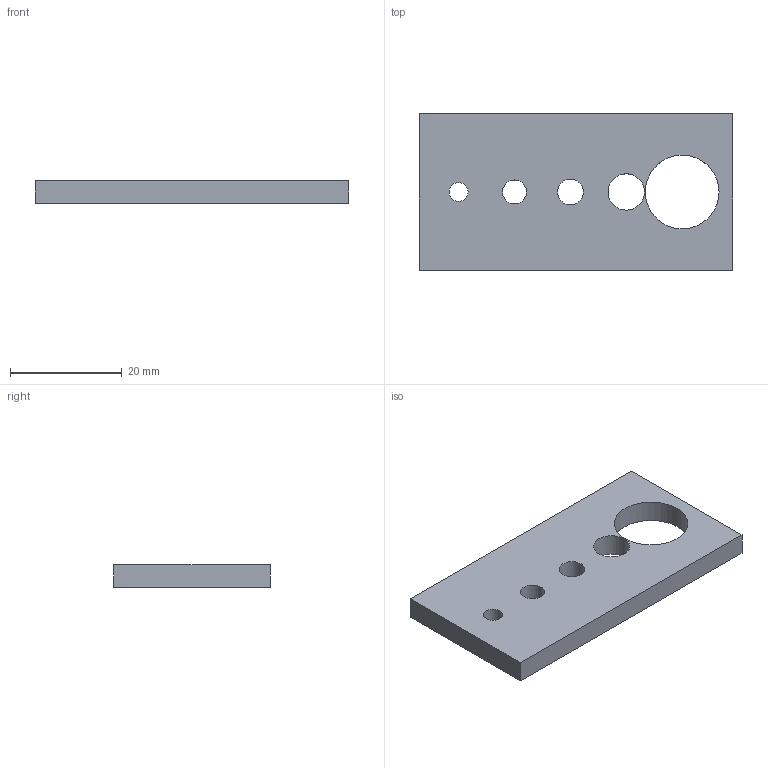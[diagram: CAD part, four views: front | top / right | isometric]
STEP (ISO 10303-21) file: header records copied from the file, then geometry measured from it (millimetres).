
FILE_DESCRIPTION(('Open CASCADE Model'),'2;1');
FILE_NAME('Open CASCADE Shape Model','2026-10-07T15:46:24',('Author'),( 'Open CASCADE'),'Open CASCADE STEP processor 7.9','Open CASCADE 7.9' ,'Unknown');
FILE_SCHEMA(('AUTOMOTIVE_DESIGN { 1 0 10303 214 1 1 1 1 }'));
Length unit declared in the file: millimetre
Products named in the file (1): Open CASCADE STEP translator 7.9 10
Bounding box: 56 x 28 x 4 mm (x, y, z)
Volume: 5431 mm3; surface area: 3789.6 mm2
Topology: 1 solids, 1 shells, 11 faces, 27 edges, 18 vertices
Faces by surface type: plane 6, cylinder 5
Full cylindrical faces by diameter (mm): 3.4 x1, 4.3 x1, 4.6 x1, 6.5 x1, 13.2 x1
Entity records: 742 total; most frequent: CARTESIAN_POINT 171, DIRECTION 105, LINE 61, VECTOR 61, ORIENTED_EDGE 54, PCURVE 54, DEFINITIONAL_REPRESENTATION 54, EDGE_CURVE 27
